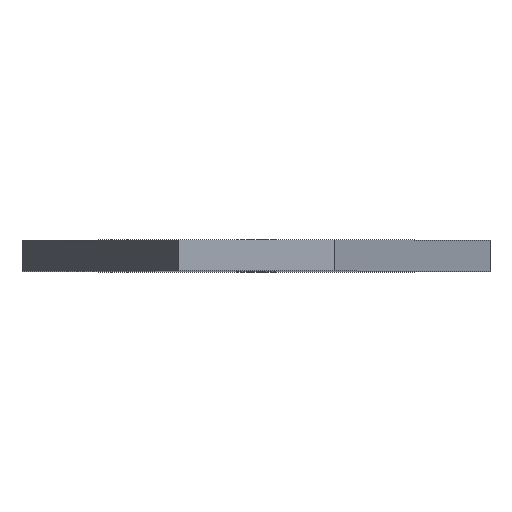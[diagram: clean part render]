
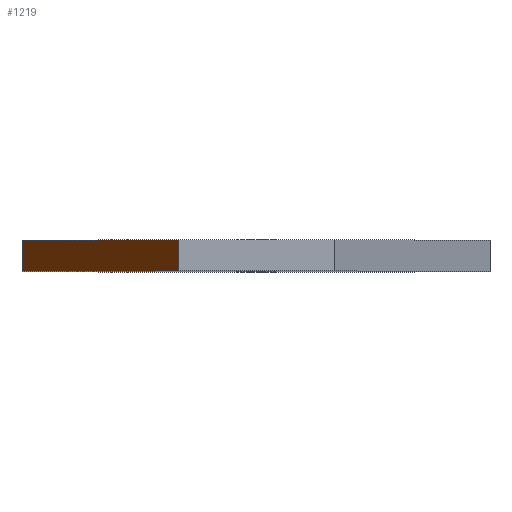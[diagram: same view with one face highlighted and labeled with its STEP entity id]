
A CAD part, top view. The second image highlights one B-rep face of the part: STEP entity #1219.
In plain terms, the highlighted planar face has unit normal (-0.894, 0, 0.447).
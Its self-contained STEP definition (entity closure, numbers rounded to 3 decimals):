
#32 = PLANE('',#33);
#33 = AXIS2_PLACEMENT_3D('',#34,#35,#36);
#34 = CARTESIAN_POINT('',(0.,4.,0.));
#35 = DIRECTION('',(0.,-1.,0.));
#36 = DIRECTION('',(0.,0.,-1.));
#141 = VERTEX_POINT('',#142);
#142 = CARTESIAN_POINT('',(-30.,4.,10.));
#156 = PLANE('',#157);
#157 = AXIS2_PLACEMENT_3D('',#158,#159,#160);
#158 = CARTESIAN_POINT('',(-30.,4.,10.));
#159 = DIRECTION('',(1.,0.,0.));
#160 = DIRECTION('',(0.,0.,-1.));
#168 = EDGE_CURVE('',#141,#169,#171,.T.);
#169 = VERTEX_POINT('',#170);
#170 = CARTESIAN_POINT('',(-10.,4.,50.));
#171 = SURFACE_CURVE('',#172,(#176,#183),.PCURVE_S1.);
#172 = LINE('',#173,#174);
#173 = CARTESIAN_POINT('',(-30.,4.,10.));
#174 = VECTOR('',#175,1.);
#175 = DIRECTION('',(0.447,0.,0.894));
#176 = PCURVE('',#32,#177);
#177 = DEFINITIONAL_REPRESENTATION('',(#178),#182);
#178 = LINE('',#179,#180);
#179 = CARTESIAN_POINT('',(-10.,-30.));
#180 = VECTOR('',#181,1.);
#181 = DIRECTION('',(-0.894,0.447));
#182 = ( GEOMETRIC_REPRESENTATION_CONTEXT(2) 
PARAMETRIC_REPRESENTATION_CONTEXT() REPRESENTATION_CONTEXT('2D SPACE',''
  ) );
#183 = PCURVE('',#184,#189);
#184 = PLANE('',#185);
#185 = AXIS2_PLACEMENT_3D('',#186,#187,#188);
#186 = CARTESIAN_POINT('',(-30.,4.,10.));
#187 = DIRECTION('',(0.894,0.,-0.447));
#188 = DIRECTION('',(-0.447,0.,-0.894));
#189 = DEFINITIONAL_REPRESENTATION('',(#190),#194);
#190 = LINE('',#191,#192);
#191 = CARTESIAN_POINT('',(0.,0.));
#192 = VECTOR('',#193,1.);
#193 = DIRECTION('',(-1.,0.));
#194 = ( GEOMETRIC_REPRESENTATION_CONTEXT(2) 
PARAMETRIC_REPRESENTATION_CONTEXT() REPRESENTATION_CONTEXT('2D SPACE',''
  ) );
#212 = PLANE('',#213);
#213 = AXIS2_PLACEMENT_3D('',#214,#215,#216);
#214 = CARTESIAN_POINT('',(-10.,4.,50.));
#215 = DIRECTION('',(0.,0.,-1.));
#216 = DIRECTION('',(-1.,0.,0.));
#593 = PLANE('',#594);
#594 = AXIS2_PLACEMENT_3D('',#595,#596,#597);
#595 = CARTESIAN_POINT('',(0.,0.,0.));
#596 = DIRECTION('',(0.,-1.,0.));
#597 = DIRECTION('',(0.,0.,-1.));
#636 = VERTEX_POINT('',#637);
#637 = CARTESIAN_POINT('',(-10.,0.,50.));
#658 = EDGE_CURVE('',#659,#636,#661,.T.);
#659 = VERTEX_POINT('',#660);
#660 = CARTESIAN_POINT('',(-30.,0.,10.));
#661 = SURFACE_CURVE('',#662,(#666,#673),.PCURVE_S1.);
#662 = LINE('',#663,#664);
#663 = CARTESIAN_POINT('',(-30.,0.,10.));
#664 = VECTOR('',#665,1.);
#665 = DIRECTION('',(0.447,0.,0.894));
#666 = PCURVE('',#593,#667);
#667 = DEFINITIONAL_REPRESENTATION('',(#668),#672);
#668 = LINE('',#669,#670);
#669 = CARTESIAN_POINT('',(-10.,-30.));
#670 = VECTOR('',#671,1.);
#671 = DIRECTION('',(-0.894,0.447));
#672 = ( GEOMETRIC_REPRESENTATION_CONTEXT(2) 
PARAMETRIC_REPRESENTATION_CONTEXT() REPRESENTATION_CONTEXT('2D SPACE',''
  ) );
#673 = PCURVE('',#184,#674);
#674 = DEFINITIONAL_REPRESENTATION('',(#675),#679);
#675 = LINE('',#676,#677);
#676 = CARTESIAN_POINT('',(-0.,-4.));
#677 = VECTOR('',#678,1.);
#678 = DIRECTION('',(-1.,0.));
#679 = ( GEOMETRIC_REPRESENTATION_CONTEXT(2) 
PARAMETRIC_REPRESENTATION_CONTEXT() REPRESENTATION_CONTEXT('2D SPACE',''
  ) );
#1197 = EDGE_CURVE('',#141,#659,#1198,.T.);
#1198 = SURFACE_CURVE('',#1199,(#1203,#1210),.PCURVE_S1.);
#1199 = LINE('',#1200,#1201);
#1200 = CARTESIAN_POINT('',(-30.,4.,10.));
#1201 = VECTOR('',#1202,1.);
#1202 = DIRECTION('',(0.,-1.,0.));
#1203 = PCURVE('',#156,#1204);
#1204 = DEFINITIONAL_REPRESENTATION('',(#1205),#1209);
#1205 = LINE('',#1206,#1207);
#1206 = CARTESIAN_POINT('',(0.,0.));
#1207 = VECTOR('',#1208,1.);
#1208 = DIRECTION('',(0.,-1.));
#1209 = ( GEOMETRIC_REPRESENTATION_CONTEXT(2) 
PARAMETRIC_REPRESENTATION_CONTEXT() REPRESENTATION_CONTEXT('2D SPACE',''
  ) );
#1210 = PCURVE('',#184,#1211);
#1211 = DEFINITIONAL_REPRESENTATION('',(#1212),#1216);
#1212 = LINE('',#1213,#1214);
#1213 = CARTESIAN_POINT('',(0.,0.));
#1214 = VECTOR('',#1215,1.);
#1215 = DIRECTION('',(-0.,-1.));
#1216 = ( GEOMETRIC_REPRESENTATION_CONTEXT(2) 
PARAMETRIC_REPRESENTATION_CONTEXT() REPRESENTATION_CONTEXT('2D SPACE',''
  ) );
#1219 = ADVANCED_FACE('',(#1220),#184,.F.);
#1220 = FACE_BOUND('',#1221,.T.);
#1221 = EDGE_LOOP('',(#1222,#1223,#1244,#1245));
#1222 = ORIENTED_EDGE('',*,*,#658,.T.);
#1223 = ORIENTED_EDGE('',*,*,#1224,.F.);
#1224 = EDGE_CURVE('',#169,#636,#1225,.T.);
#1225 = SURFACE_CURVE('',#1226,(#1230,#1237),.PCURVE_S1.);
#1226 = LINE('',#1227,#1228);
#1227 = CARTESIAN_POINT('',(-10.,4.,50.));
#1228 = VECTOR('',#1229,1.);
#1229 = DIRECTION('',(0.,-1.,0.));
#1230 = PCURVE('',#184,#1231);
#1231 = DEFINITIONAL_REPRESENTATION('',(#1232),#1236);
#1232 = LINE('',#1233,#1234);
#1233 = CARTESIAN_POINT('',(-44.721,0.));
#1234 = VECTOR('',#1235,1.);
#1235 = DIRECTION('',(-0.,-1.));
#1236 = ( GEOMETRIC_REPRESENTATION_CONTEXT(2) 
PARAMETRIC_REPRESENTATION_CONTEXT() REPRESENTATION_CONTEXT('2D SPACE',''
  ) );
#1237 = PCURVE('',#212,#1238);
#1238 = DEFINITIONAL_REPRESENTATION('',(#1239),#1243);
#1239 = LINE('',#1240,#1241);
#1240 = CARTESIAN_POINT('',(0.,0.));
#1241 = VECTOR('',#1242,1.);
#1242 = DIRECTION('',(0.,-1.));
#1243 = ( GEOMETRIC_REPRESENTATION_CONTEXT(2) 
PARAMETRIC_REPRESENTATION_CONTEXT() REPRESENTATION_CONTEXT('2D SPACE',''
  ) );
#1244 = ORIENTED_EDGE('',*,*,#168,.F.);
#1245 = ORIENTED_EDGE('',*,*,#1197,.T.);
